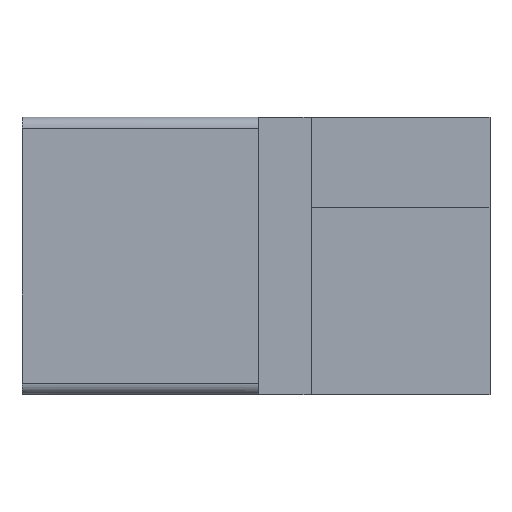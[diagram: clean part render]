
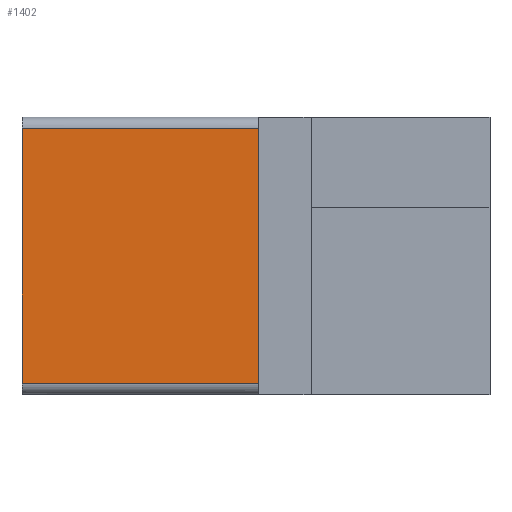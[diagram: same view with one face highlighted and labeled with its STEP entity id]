
A CAD part, top view. The second image highlights one B-rep face of the part: STEP entity #1402.
In plain terms, the highlighted planar face has unit normal (0, 0, 1).
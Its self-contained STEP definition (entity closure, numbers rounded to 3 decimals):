
#1375=AXIS2_PLACEMENT_3D('Plane Axis2P3D',#1372,#1373,#1374) ;
#869=CARTESIAN_POINT('Line Origine',(-15.,-8.425,5.625)) ;
#873=CARTESIAN_POINT('Vertex',(-15.,2.9,5.625)) ;
#875=CARTESIAN_POINT('Vertex',(-15.,-19.75,5.625)) ;
#1372=CARTESIAN_POINT('Axis2P3D Location',(6.,5.025,5.625)) ;
#1377=CARTESIAN_POINT('Line Origine',(-4.5,-19.75,5.625)) ;
#1381=CARTESIAN_POINT('Vertex',(6.,-19.75,5.625)) ;
#1384=CARTESIAN_POINT('Line Origine',(6.,-8.425,5.625)) ;
#1388=CARTESIAN_POINT('Vertex',(6.,2.9,5.625)) ;
#1391=CARTESIAN_POINT('Line Origine',(-4.5,2.9,5.625)) ;
#870=DIRECTION('Vector Direction',(0.,-1.,0.)) ;
#1373=DIRECTION('Axis2P3D Direction',(-0.,0.,-1.)) ;
#1374=DIRECTION('Axis2P3D XDirection',(0.,-1.,0.)) ;
#1378=DIRECTION('Vector Direction',(1.,0.,0.)) ;
#1385=DIRECTION('Vector Direction',(0.,-1.,0.)) ;
#1392=DIRECTION('Vector Direction',(-1.,0.,0.)) ;
#871=VECTOR('Line Direction',#870,1.) ;
#1379=VECTOR('Line Direction',#1378,1.) ;
#1386=VECTOR('Line Direction',#1385,1.) ;
#1393=VECTOR('Line Direction',#1392,1.) ;
#1397=ORIENTED_EDGE('',*,*,#1383,.T.) ;
#1398=ORIENTED_EDGE('',*,*,#1390,.F.) ;
#1399=ORIENTED_EDGE('',*,*,#1395,.F.) ;
#1400=ORIENTED_EDGE('',*,*,#877,.T.) ;
#1402=ADVANCED_FACE('\X2\FF8EFF9EFF83FF9EFF68FF70\X0\1',(#1401),#1376,.F.) ;
#877=EDGE_CURVE('',#874,#876,#872,.T.) ;
#1383=EDGE_CURVE('',#876,#1382,#1380,.T.) ;
#1390=EDGE_CURVE('',#1389,#1382,#1387,.T.) ;
#1395=EDGE_CURVE('',#874,#1389,#1394,.F.) ;
#1396=EDGE_LOOP('',(#1397,#1398,#1399,#1400)) ;
#1401=FACE_OUTER_BOUND('',#1396,.T.) ;
#872=LINE('Line',#869,#871) ;
#1380=LINE('Line',#1377,#1379) ;
#1387=LINE('Line',#1384,#1386) ;
#1394=LINE('Line',#1391,#1393) ;
#1376=PLANE('',#1375) ;
#874=VERTEX_POINT('',#873) ;
#876=VERTEX_POINT('',#875) ;
#1382=VERTEX_POINT('',#1381) ;
#1389=VERTEX_POINT('',#1388) ;
